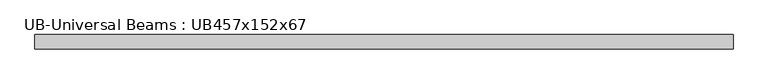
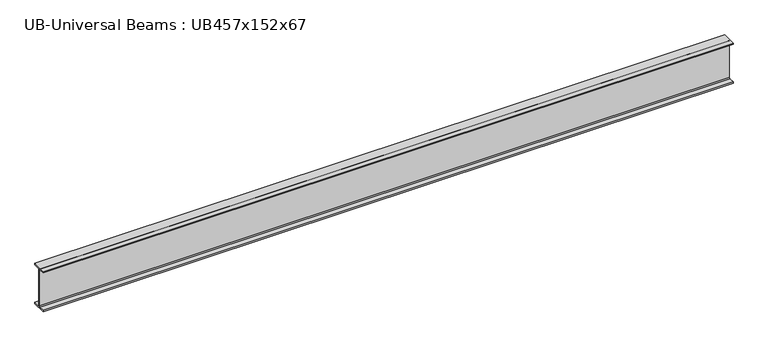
"""IFC4 building model written with IfcOpenShell, lengths in millimetres: beam geometry, UB-Universal Beams : UB457x152x67."""

from ifc_helpers import new_model, si_unit, point, frame, frame_2d, origin, place, context, project, spatial, polyline, circle_curve, trimmed, segment, composite_curve, outline, extrude, source, transform, mapped, element, save


def ub_universal_beams_ub457x152x67_656765b2(model_context):
    return source(origin(), model_context, "Body", "SweptSolid", [
        extrude(outline(composite_curve([segment(polyline([(76.9, -214.0), (76.9, -229.0), (-76.9, -229.0), (-76.9, -214.0), (-14.7, -214.0)]), True, "CONTINUOUS"), segment(trimmed(circle_curve(frame_2d((-14.7, -203.8)), 10.2), [point((-14.7, -214.0))], [point((-4.5, -203.8))], True, "CARTESIAN"), True, "CONTINUOUS"), segment(polyline([(-4.5, -203.8), (-4.5, 203.8)]), True, "CONTINUOUS"), segment(trimmed(circle_curve(frame_2d((-14.7, 203.8)), 10.2), [point((-4.5, 203.8))], [point((-14.7, 214.0))], True, "CARTESIAN"), True, "CONTINUOUS"), segment(polyline([(-14.7, 214.0), (-76.9, 214.0), (-76.9, 229.0), (76.9, 229.0), (76.9, 214.0), (14.7, 214.0)]), True, "CONTINUOUS"), segment(trimmed(circle_curve(frame_2d((14.7, 203.8)), 10.2), [point((14.7, 214.0))], [point((4.5, 203.8))], True, "CARTESIAN"), True, "CONTINUOUS"), segment(polyline([(4.5, 203.8), (4.5, -203.8)]), True, "CONTINUOUS"), segment(trimmed(circle_curve(frame_2d((14.7, -203.8)), 10.2), [point((4.5, -203.8))], [point((14.7, -214.0))], True, "CARTESIAN"), True, "CONTINUOUS"), segment(polyline([(14.7, -214.0), (76.9, -214.0)]), True, "CONTINUOUS")], self_intersect=False)), frame((-3706.6, 0.0, 0.0), z_axis=(1.0, 0.0, 0.0), x_axis=(0.0, 1.0, 0.0)), (0.0, 0.0, 1.0), 7440.7),
    ])


if __name__ == "__main__":
    model = new_model("IFC4")
    model_context = context("Model", 3, world=origin())
    ifc_project = project(units=[si_unit("LENGTHUNIT", "METRE", prefix="MILLI")], contexts=[model_context])
    site = spatial("IfcSite", under=ifc_project)
    building = spatial("IfcBuilding", under=site)
    placement = place(None, origin())
    ub_universal_beams_ub457x152x67_shape = ub_universal_beams_ub457x152x67_656765b2(model_context)
    element("IfcBeam", 1, ObjectType="UB-Universal Beams : UB457x152x67", at=placement, inside=building, context=model_context, shape_type="MappedRepresentation", body=[
        mapped(ub_universal_beams_ub457x152x67_shape, transform((0.0, 0.0, 0.0), x_axis=(1.0, 0.0, 0.0), y_axis=(0.0, 1.0, 0.0), z_axis=(0.0, 0.0, 1.0))),
    ])
    save(model, "model.ifc")
